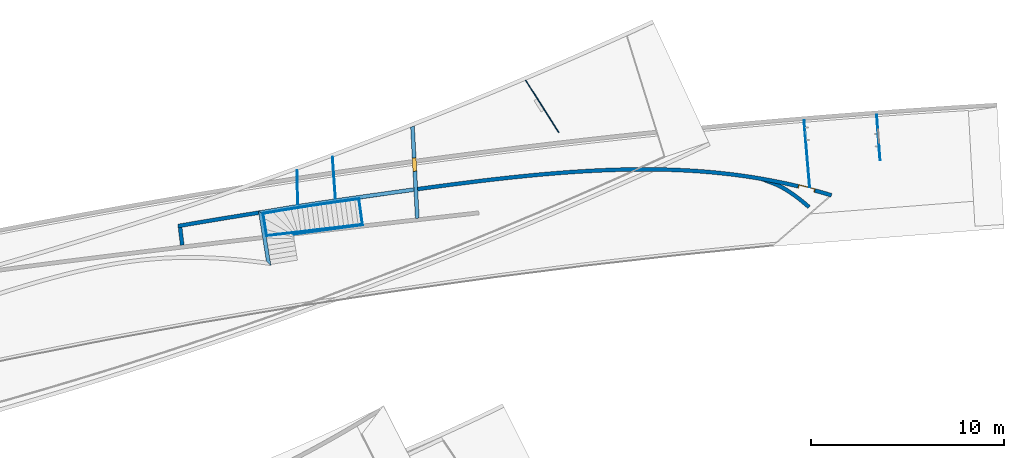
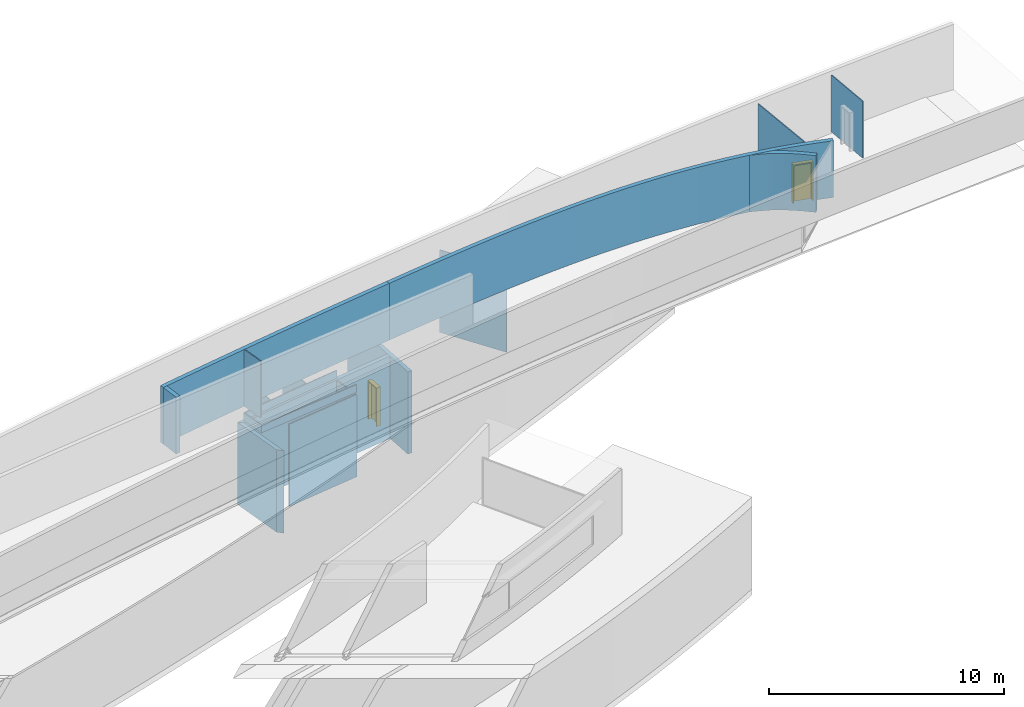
# Not in any storey, part 8 of 14: 18 walls, 2 doors, 2 openings.
"""IFC2X3 model written with IfcOpenShell, lengths in millimetres."""

from ifc_helpers import new_model, entity, si_unit, converted_unit, point, direction, frame, frame_2d, origin_with_axes, origin_2d, place, context, project, spatial, polyline, circle_curve, trimmed, segment, composite_curve, rectangle, outline, extrude, source, transform, mapped, material, layer, layer_set, layer_usage, type_object, element, fill, save


model = new_model("IFC2X3")

# Units and contexts
model_context = context("Model", 3, precision=1.0, world=origin_with_axes(), true_north=direction((0.0, 1.0)))
ifc_project = project(units=[si_unit("LENGTHUNIT", "METRE", prefix="MILLI"), converted_unit("PLANEANGLEUNIT", "DEGREE", entity("IfcRatioMeasure", 0.017453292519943), si_unit("PLANEANGLEUNIT", "RADIAN"), dimensions=[0, 0, 0, 0, 0, 0, 0])], contexts=[model_context])

# Site
site_placement = place(None, origin_with_axes())
site = spatial("IfcSite", under=ifc_project, at=site_placement, Name="Site", CompositionType="ELEMENT")

# Wall
ifc_material_1 = material(Name="Wall layer 1")
ifc_layer_1 = layer(ifc_material_1, 200.0)
ifc_layer_set_1 = layer_set([ifc_layer_1], Name="HOKI 350")
ifc_layer_usage_1 = layer_usage(ifc_layer_set_1, "AXIS2", "POSITIVE", -100.0)
wall_type_1 = type_object("IfcWallType", Name="HOKI 350", PredefinedType="STANDARD", material=ifc_layer_set_1)
wall_1_placement = place(site_placement, frame((9483.82818094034, 8338.23594610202, 9850.0), z_axis=(0.0, 0.0, 1.0), x_axis=(0.985764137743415, 0.168134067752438, 0.0)))
element("IfcWallStandardCase", 1, at=wall_1_placement, inside=site, type_object=wall_type_1, material=ifc_layer_usage_1, ObjectType="HOKI 350", context=model_context, shape_type="SweptSolid", body=[
    extrude(outline(composite_curve([segment(polyline([(12137.636975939, -293.868793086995), (12144.0243591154, -93.9708157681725)]), True, "CONTINUOUS"), segment(trimmed(circle_curve(frame_2d((0.761891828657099, -380102.678588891), x_axis=(0.031938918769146, 0.999489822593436)), 380202.678589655), [point((12144.0243591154, -93.9708157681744))], [point((-194.00870173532, 99.9501121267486))], True, "CARTESIAN"), True, "CONTINUOUS"), segment(polyline([(-194.008701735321, 99.9501121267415), (-203.99791654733, -100.055601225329)]), True, "CONTINUOUS"), segment(trimmed(circle_curve(frame_2d((1.56011106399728, -380052.70409251), x_axis=(-0.000541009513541, 0.999999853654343)), 379952.704095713), [point((-203.99791654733, -100.055601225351))], [point((12137.636975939, -293.868793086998))], False, "CARTESIAN"), True, "CONTINUOUS")], self_intersect="UNKNOWN")), origin_with_axes(), (0.0, 0.0, 1.0), 2950.0),
])

# Wall, opening, door
wall_2_placement = place(site_placement, frame((21484.4281809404, 10188.364003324, 9850.0), z_axis=(0.0, 0.0, 1.0), x_axis=(0.990601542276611, 0.136779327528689, 0.0)))
wall_2 = element("IfcWallStandardCase", 2, at=wall_2_placement, inside=site, type_object=wall_type_1, material=ifc_layer_usage_1, ObjectType="HOKI 350", context=model_context, shape_type="SweptSolid", body=[
    extrude(outline(composite_curve([segment(polyline([(21430.290167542, -3346.7649110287), (21513.7839766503, -3165.02668213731)]), True, "CONTINUOUS"), segment(polyline([(21513.7839766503, -3165.02668213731), (21200.8189237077, -3023.37899807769), (20886.4275829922, -2885.34529412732), (20570.5981295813, -2750.92174074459), (20253.3187385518, -2620.1045083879), (19934.5775849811, -2492.88976751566), (19614.3628439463, -2369.27368858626), (19292.6626905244, -2249.25244205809), (18969.4652997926, -2132.82219838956), (18645.0039474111, -2020.0592141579), (18319.4563086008, -1910.99249215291), (17992.8247231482, -1805.5818475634), (17665.1115308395, -1703.78709557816), (17336.3190714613, -1605.56805138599), (17006.4496847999, -1510.88453017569), (16675.5057106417, -1419.69634713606), (16343.4894887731, -1331.96331745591), (16010.6416991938, -1247.69817510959), (15677.0759956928, -1166.85999499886), (15342.8051066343, -1089.38007635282), (15007.8417603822, -1015.18971840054), (14672.1986853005, -944.220220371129), (14335.8886097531, -876.402881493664), (13998.924262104, -811.669000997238), (13661.3183707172, -749.949878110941), (13323.2753962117, -691.200988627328), (12984.8186889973, -635.338765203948), (12645.964974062, -582.285079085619), (12306.7309763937, -531.961801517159), (11967.1334209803, -484.290803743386), (11627.1890328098, -439.193957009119), (11286.91453687, -396.593132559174), (10946.3266581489, -356.41020163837), (10605.221986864, -318.515720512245), (10264.0360851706, -282.857167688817), (9922.7670002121, -249.359957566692), (9581.41277913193, -217.949504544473), (8898.44111718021, -161.090527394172), (8215.10547646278, -111.683551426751), (7531.39023412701, -69.1318918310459), (6847.27976732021, -32.8388637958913), (6162.75845318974, -2.20778251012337), (5477.81066888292, 23.3580368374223), (4793.07245360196, 44.4270279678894), (4108.3252218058, 61.4528596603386), (3423.57517913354, 74.8158622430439), (2738.82853122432, 84.8963660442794), (2054.09148371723, 92.0747013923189), (1369.37024225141, 96.7311986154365), (-3.638e-12, 100.000000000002)]), True, "CONTINUOUS"), segment(polyline([(-3.638e-12, 100.000000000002), (3.638e-12, -100.000000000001)]), True, "CONTINUOUS"), segment(polyline([(3.638e-12, -100.000000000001), (1368.33400706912, -103.263162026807), (2052.27325204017, -107.912032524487), (2736.10536557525, -115.079023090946), (3419.86387837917, -125.144079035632), (4103.58232115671, -138.487145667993), (4787.29422461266, -155.488168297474), (5471.03311945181, -176.527092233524), (6154.76315610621, -202.041764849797), (6837.65658900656, -232.587988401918), (7519.82297529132, -268.765494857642), (8201.37187209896, -311.17401618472), (8882.41283656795, -360.413284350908), (9563.05542583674, -417.083031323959), (9903.26156637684, -448.391750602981), (10243.4091970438, -481.782989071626), (10583.51201248, -517.331713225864), (10923.5837073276, -555.112889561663), (11262.9971183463, -595.15353815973), (11601.8463892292, -637.568654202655), (11940.1873507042, -682.446151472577), (12278.0758334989, -729.873943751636), (12615.5676683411, -779.939944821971), (12952.7186859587, -832.732068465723), (13289.5847170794, -888.338228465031), (13626.2215924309, -946.846338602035), (13962.3561710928, -1008.29081128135), (14297.5581126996, -1072.67512058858), (14631.9027891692, -1140.08628722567), (14965.4655724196, -1210.61133189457), (15298.3218343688, -1284.33727529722), (15630.5469469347, -1361.35113813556), (15962.2162820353, -1441.73994111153), (16293.4052115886, -1525.59070492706), (16623.723081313, -1612.86754516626), (16952.6642793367, -1703.48969295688), (17280.32423941, -1797.52663451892), (17606.7983952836, -1895.04785607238), (17932.1821807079, -1996.12284383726), (18256.5710294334, -2100.82108403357), (18580.0603752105, -2209.2120628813), (18902.7456517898, -2321.36526660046), (19224.1642448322, -2437.14650444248), (19543.7978868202, -2556.38125400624), (19861.7568349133, -2679.11329053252), (20178.1513462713, -2805.38638926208), (20493.0916780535, -2935.24432543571), (20806.6880874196, -3068.73087429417), (21119.0508315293, -3205.88981107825), (21430.290167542, -3346.7649110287)]), True, "CONTINUOUS")], self_intersect="UNKNOWN")), origin_with_axes(), (0.0, 0.0, 1.0), 2950.0),
])
opening_1_placement = place(wall_2_placement, frame((20238.3254842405, -2725.54654480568, 1.0914e-11), z_axis=(0.0, 0.0, 1.0), x_axis=(0.926323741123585, -0.376728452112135, -2e-15)))
opening_1 = element("IfcOpeningElement", 3, at=opening_1_placement, cuts=wall_2, Name="Opening", ObjectType="Opening", context=model_context, shape_type="SweptSolid", body=[
    extrude(rectangle(XDim=900.0, YDim=2000.0, at=origin_2d()), frame((0.0, 400.0, 1000.0), z_axis=(0.0, -1.0, 0.0), x_axis=(1.0, 0.0, 0.0)), (0.0, 0.0, 1.0), 800.0),
])
door_style_1 = type_object("IfcDoorStyle", Name="Hinged Double", ConstructionType="NOTDEFINED", OperationType="DOUBLE_DOOR_SINGLE_SWING", ParameterTakesPrecedence=True, Sizeable=False)
shared_shape_1 = source(origin_with_axes(), model_context, "Body", "SweptSolid", [
    extrude(outline(composite_curve([segment(polyline([(0.0, 0.0), (0.0, 1950.0)]), True, "CONTINUOUS"), segment(polyline([(0.0, 1950.0), (800.0, 1950.0)]), True, "CONTINUOUS"), segment(polyline([(800.0, 1950.0), (800.0, 0.0)]), True, "CONTINUOUS"), segment(polyline([(800.0, 0.0), (850.0, 0.0)]), True, "CONTINUOUS"), segment(polyline([(850.0, 0.0), (850.0, 2000.0)]), True, "CONTINUOUS"), segment(polyline([(850.0, 2000.0), (-50.0, 2000.0)]), True, "CONTINUOUS"), segment(polyline([(-50.0, 2000.0), (-50.0, 0.0)]), True, "CONTINUOUS"), segment(polyline([(-50.0, 0.0), (0.0, 0.0)]), True, "CONTINUOUS")], self_intersect=False)), frame((400.000000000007, -100.0, 1.819e-12), z_axis=(-3.6e-14, 1.0, 0.0), x_axis=(-1.0, -3.6e-14, 0.0)), (0.0, 0.0, 1.0), 200.0),
    extrude(outline(composite_curve([segment(polyline([(0.0, 0.0), (0.0, -1950.0)]), True, "CONTINUOUS"), segment(polyline([(0.0, -1950.0), (400.0, -1950.0)]), True, "CONTINUOUS"), segment(polyline([(400.0, -1950.0), (400.0, 0.0)]), True, "CONTINUOUS"), segment(polyline([(400.0, 0.0), (0.0, 0.0)]), True, "CONTINUOUS")], self_intersect=False)), frame((7.276e-12, 60.0, 1950.0), z_axis=(0.0, 1.0, 0.0), x_axis=(-1.0, 0.0, 0.0)), (0.0, 0.0, 1.0), 40.0),
    extrude(outline(composite_curve([segment(polyline([(0.0, 0.0), (0.0, 1950.0)]), True, "CONTINUOUS"), segment(polyline([(0.0, 1950.0), (-400.0, 1950.0)]), True, "CONTINUOUS"), segment(polyline([(-400.0, 1950.0), (-400.0, 0.0)]), True, "CONTINUOUS"), segment(polyline([(-400.0, 0.0), (0.0, 0.0)]), True, "CONTINUOUS")], self_intersect=False)), frame((7.276e-12, 60.0, 0.0), z_axis=(0.0, 1.0, 0.0), x_axis=(-1.0, 0.0, 0.0)), (0.0, 0.0, 1.0), 40.0),
])
door_1_placement = place(opening_1_placement, origin_with_axes())
door_1 = element("IfcDoor", 4, at=door_1_placement, inside=site, type_object=door_style_1, ObjectType="Hinged Double", OverallHeight=2000.0, OverallWidth=900.0, shape_type="MappedRepresentation", body=[
    mapped(shared_shape_1, transform((0.0, 0.0, 0.0))),
])
fill(opening_1, door_1)

# Walls
wall_3_placement = place(site_placement, frame((9388.73914328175, 8301.71660214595, 9850.0), z_axis=(0.0, 0.0, 1.0), x_axis=(0.118752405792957, -0.992923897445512, 0.0)))
element("IfcWallStandardCase", 5, at=wall_3_placement, inside=site, type_object=wall_type_1, material=ifc_layer_usage_1, ObjectType="HOKI 350", context=model_context, shape_type="SweptSolid", body=[
    extrude(outline(composite_curve([segment(polyline([(995.833622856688, 100.0), (995.864981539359, -99.9999999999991)]), True, "CONTINUOUS"), segment(polyline([(995.864981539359, -99.9999999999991), (85.1380842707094, -99.9999999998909)]), True, "CONTINUOUS"), segment(trimmed(circle_curve(frame_2d((379554.529638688, 19058.2791708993), x_axis=(-0.998727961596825, -0.050422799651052)), 379952.705987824), [point((85.1380842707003, -99.9999999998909))], [point((75.0935181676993, 100.000000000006))], False, "CARTESIAN"), True, "CONTINUOUS"), segment(polyline([(75.0935181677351, 100.000000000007), (995.833622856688, 100.0)]), True, "CONTINUOUS")], self_intersect="UNKNOWN")), origin_with_axes(), (0.0, 0.0, 1.0), 2950.0),
])
wall_4_placement = place(site_placement, frame((40180.8445353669, 10519.5757198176, 9850.0), z_axis=(0.0, 0.0, 1.0), x_axis=(0.933100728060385, -0.359615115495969, 0.0)))
element("IfcWallStandardCase", 6, at=wall_4_placement, inside=site, type_object=wall_type_1, material=ifc_layer_usage_1, ObjectType="HOKI 350", context=model_context, shape_type="SweptSolid", body=[
    extrude(outline(composite_curve([segment(polyline([(2139.19432481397, -576.661874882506), (2209.06631616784, -389.264156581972)]), True, "CONTINUOUS"), segment(polyline([(2209.06631616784, -389.264156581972), (1996.26981881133, -312.12857717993), (1774.18461215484, -236.665008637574), (1544.5815308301, -164.617382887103), (1309.23140946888, -97.7296318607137), (1189.95459459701, -66.7656880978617), (1069.90508270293, -37.7456874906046), (949.304228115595, -10.887621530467), (828.373385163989, 13.5905182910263), (707.333908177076, 35.4707404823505), (586.407151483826, 54.535053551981), (465.814469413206, 70.5654660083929), (345.777216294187, 83.3439863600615)]), True, "CONTINUOUS"), segment(polyline([(345.777216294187, 83.3439863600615), (90.1056677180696, 39.7202424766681), (-158.462767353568, -4.84372326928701), (-406.450668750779, -51.4191129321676), (-653.905478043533, -100.000000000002)]), True, "CONTINUOUS"), segment(polyline([(-653.905478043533, -100.000000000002), (0.0, -100.0), (130.590937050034, -102.714415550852), (263.49025299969, -110.63034084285), (398.292115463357, -123.406793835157), (534.590692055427, -140.702792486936), (671.980150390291, -162.17735475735), (810.054658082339, -187.489498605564), (948.408382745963, -216.298241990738), (1086.63549199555, -248.262602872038), (1224.3301534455, -283.041599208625), (1361.0865347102, -320.294248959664), (1496.49880340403, -359.679570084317), (1630.1611271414, -400.856580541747), (1890.61261020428, -487.221741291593), (2139.19432481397, -576.661874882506)]), True, "CONTINUOUS")], self_intersect="UNKNOWN")), origin_with_axes(), (0.0, 0.0, 1.0), 2950.0),
])

# Wall, opening, door
wall_5_placement = place(site_placement, frame((21706.6108007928, 8706.43638090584, 4720.0), z_axis=(0.0, 0.0, 1.0), x_axis=(-0.052079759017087, 0.998642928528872, 0.0)))
wall_5 = element("IfcWallStandardCase", 7, at=wall_5_placement, inside=site, type_object=wall_type_1, material=ifc_layer_usage_1, ObjectType="HOKI 350", context=model_context, shape_type="SweptSolid", body=[
    extrude(outline(composite_curve([segment(trimmed(circle_curve(frame_2d((231048.319927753, 75676.3682972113), x_axis=(-0.94850931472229, -0.31674923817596)), 238600.00021603), [point((4733.99723010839, 99.9999999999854))], [point((4800.88433836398, -100.000000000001))], True, "CARTESIAN"), True, "CONTINUOUS"), segment(polyline([(4800.88433836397, -100.000000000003), (-9.09e-13, -99.9999999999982)]), True, "CONTINUOUS"), segment(polyline([(-9.09e-13, -99.9999999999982), (-9.09e-13, 99.9999999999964)]), True, "CONTINUOUS"), segment(polyline([(-9.09e-13, 99.9999999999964), (4733.99723010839, 99.9999999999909)]), True, "CONTINUOUS")], self_intersect="UNKNOWN")), origin_with_axes(), (0.0, 0.0, 1.0), 4280.0),
])
opening_2_placement = place(wall_5_placement, frame((2793.71131564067, 7.276e-12, 9.09e-13), z_axis=(0.0, 0.0, 1.0), x_axis=(-1.0, -7e-15, 0.0)))
opening_2 = element("IfcOpeningElement", 8, at=opening_2_placement, cuts=wall_5, Name="Opening", ObjectType="Opening", context=model_context, shape_type="SweptSolid", body=[
    extrude(rectangle(XDim=700.0, YDim=2000.0, at=origin_2d()), frame((0.0, 600.0, 1000.0), z_axis=(0.0, -1.0, 0.0), x_axis=(1.0, 0.0, 0.0)), (0.0, 0.0, 1.0), 1200.0),
])
door_style_2 = type_object("IfcDoorStyle", Name="Hinged", ConstructionType="NOTDEFINED", OperationType="SINGLE_SWING_LEFT", ParameterTakesPrecedence=True, Sizeable=False)
shared_shape_2 = source(origin_with_axes(), model_context, "Body", "SweptSolid", [
    extrude(outline(composite_curve([segment(polyline([(0.0, 0.0), (0.0, 1950.0)]), True, "CONTINUOUS"), segment(polyline([(0.0, 1950.0), (600.0, 1950.0)]), True, "CONTINUOUS"), segment(polyline([(600.0, 1950.0), (600.0, 0.0)]), True, "CONTINUOUS"), segment(polyline([(600.0, 0.0), (650.0, 0.0)]), True, "CONTINUOUS"), segment(polyline([(650.0, 0.0), (650.0, 2000.0)]), True, "CONTINUOUS"), segment(polyline([(650.0, 2000.0), (-50.0, 2000.0)]), True, "CONTINUOUS"), segment(polyline([(-50.0, 2000.0), (-50.0, 0.0)]), True, "CONTINUOUS"), segment(polyline([(-50.0, 0.0), (0.0, 0.0)]), True, "CONTINUOUS")], self_intersect=False)), frame((300.0, -100.0, 0.0), z_axis=(-9e-15, 1.0, 0.0), x_axis=(-1.0, -9e-15, 0.0)), (0.0, 0.0, 1.0), 200.0),
    extrude(outline(composite_curve([segment(polyline([(0.0, 0.0), (0.0, 1950.0)]), True, "CONTINUOUS"), segment(polyline([(0.0, 1950.0), (-600.0, 1950.0)]), True, "CONTINUOUS"), segment(polyline([(-600.0, 1950.0), (-600.0, 0.0)]), True, "CONTINUOUS"), segment(polyline([(-600.0, 0.0), (0.0, 0.0)]), True, "CONTINUOUS")], self_intersect=False)), frame((-300.0, 60.0, 0.0), z_axis=(0.0, 1.0, 0.0), x_axis=(-1.0, 0.0, 0.0)), (0.0, 0.0, 1.0), 40.0000000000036),
])
door_2_placement = place(opening_2_placement, origin_with_axes())
door_2 = element("IfcDoor", 9, at=door_2_placement, inside=site, type_object=door_style_2, ObjectType="Hinged", OverallHeight=2000.0, OverallWidth=700.0, shape_type="MappedRepresentation", body=[
    mapped(shared_shape_2, transform((0.0, 0.0, 0.0))),
])
fill(opening_2, door_2)

# Walls
wall_6_placement = place(site_placement, frame((13667.693475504, 9027.85338323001, 4720.0), z_axis=(0.0, 0.0, 1.0), x_axis=(0.985991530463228, 0.166795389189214, 0.0)))
element("IfcWallStandardCase", 10, at=wall_6_placement, inside=site, type_object=wall_type_1, material=ifc_layer_usage_1, ObjectType="HOKI 350", context=model_context, shape_type="SweptSolid", body=[
    extrude(outline(composite_curve([segment(polyline([(7957.33848552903, -60.1025787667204), (7934.2098410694, -259.502363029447)]), True, "CONTINUOUS"), segment(polyline([(7934.2098410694, -259.502363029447), (5953.39847230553, -201.985092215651), (3972.58447425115, -150.295153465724), (2931.35184180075, -127.360093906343), (1986.36349235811, -111.746295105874), (1041.33951529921, -102.833137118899), (-0.067269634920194, -99.9999999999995)]), True, "CONTINUOUS"), segment(polyline([(-0.067269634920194, -99.9999999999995), (-198.328044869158, 100.0)]), True, "CONTINUOUS"), segment(polyline([(-198.328044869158, 100.0), (1.819e-12, 100.0), (1042.58416678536, 97.160988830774), (1988.96879729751, 88.2332827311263), (2935.20980453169, 72.6008728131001), (3977.36310148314, 49.6477501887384), (4971.06877086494, 24.714320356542), (5964.70130245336, -2.22295985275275), (7951.71023489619, -59.9349250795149), (7957.33848552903, -60.1025787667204)]), True, "CONTINUOUS")], self_intersect="UNKNOWN")), origin_with_axes(), (0.0, 0.0, 1.0), 4280.0),
])
wall_7_placement = place(site_placement, frame((14004.7230728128, 6296.86660097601, 4720.0), z_axis=(0.0, 0.0, 1.0), x_axis=(-0.158177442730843, 0.987410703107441, 0.0)))
element("IfcWallStandardCase", 11, at=wall_7_placement, inside=site, type_object=wall_type_1, material=ifc_layer_usage_1, ObjectType="HOKI 350", context=model_context, shape_type="SweptSolid", body=[
    extrude(outline(polyline([(2649.91928529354, -100.0), (2848.18006052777, 99.9999999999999), (208.998367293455, 100.0), (-60.7853370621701, -100.0), (2649.91928529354, -99.9999999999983)])), origin_with_axes(), (0.0, 0.0, 1.0), 4280.0),
])
ifc_material_2 = material(Name="Wall layer 1")
ifc_layer_2 = layer(ifc_material_2, 50.0)
ifc_layer_set_2 = layer_set([ifc_layer_2], Name="HOKI 50mm")
ifc_layer_usage_2 = layer_usage(ifc_layer_set_2, "AXIS2", "POSITIVE", -25.0)
wall_type_2 = type_object("IfcWallType", Name="HOKI 50mm", PredefinedType="STANDARD", material=ifc_layer_set_2)
wall_8_placement = place(site_placement, frame((42081.824300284, 10197.4071981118, 9850.0), z_axis=(0.0, 0.0, 1.0), x_axis=(-0.084519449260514, 0.996421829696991, 0.0)))
element("IfcWallStandardCase", 12, at=wall_8_placement, inside=site, type_object=wall_type_2, material=ifc_layer_usage_2, ObjectType="HOKI 50mm", context=model_context, shape_type="SweptSolid", body=[
    extrude(outline(composite_curve([segment(trimmed(circle_curve(frame_2d((-377896.862999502, 623.691500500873), x_axis=(0.99999876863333, -0.001569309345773)), 381499.99049802), [point((3602.65773214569, 24.9999999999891))], [point((3602.57599002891, -24.9999999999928))], False, "CARTESIAN"), True, "CONTINUOUS"), segment(polyline([(3602.57599002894, -24.9999999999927), (114.878698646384, -24.9999999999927)]), True, "CONTINUOUS"), segment(polyline([(114.878698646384, -24.9999999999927), (132.479107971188, 24.9999999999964)]), True, "CONTINUOUS"), segment(polyline([(132.479107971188, 24.9999999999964), (3602.65773214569, 24.9999999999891)]), True, "CONTINUOUS")], self_intersect="UNKNOWN")), origin_with_axes(), (0.0, 0.0, 1.0), 2950.0),
])
wall_9_placement = place(site_placement, frame((45725.4182816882, 11721.9215007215, 9850.0), z_axis=(0.0, 0.0, 1.0), x_axis=(-0.074895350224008, 0.997191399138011, 0.0)))
element("IfcWallStandardCase", 13, at=wall_9_placement, inside=site, type_object=wall_type_2, material=ifc_layer_usage_2, ObjectType="HOKI 50mm", context=model_context, shape_type="SweptSolid", body=[
    extrude(outline(composite_curve([segment(trimmed(circle_curve(frame_2d((-379132.620191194, 722.718864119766), x_axis=(0.999998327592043, -0.001828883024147)), 381499.994755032), [point((2366.73654021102, 25.0000000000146))], [point((2366.64181934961, -24.9999999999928))], False, "CARTESIAN"), True, "CONTINUOUS"), segment(polyline([(2366.6418193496, -24.9999999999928), (0.0, -25.0000000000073)]), True, "CONTINUOUS"), segment(polyline([(0.0, -25.0000000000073), (-9.09e-13, 24.9999999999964)]), True, "CONTINUOUS"), segment(polyline([(-9.09e-13, 24.9999999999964), (2366.736540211, 25.0000000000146)]), True, "CONTINUOUS")], self_intersect="UNKNOWN")), origin_with_axes(), (0.0, 0.0, 1.0), 2950.0),
])
wall_10_placement = place(site_placement, frame((17473.7019665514, 9561.46801503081, 4720.0), z_axis=(0.0, 0.0, 1.0), x_axis=(-0.07192172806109, 0.997410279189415, 0.0)))
element("IfcWallStandardCase", 14, at=wall_10_placement, inside=site, type_object=wall_type_2, material=ifc_layer_usage_2, ObjectType="HOKI 50mm", context=model_context, shape_type="SweptSolid", body=[
    extrude(outline(composite_curve([segment(trimmed(circle_curve(frame_2d((231349.794538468, 66907.8975686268), x_axis=(-0.959908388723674, -0.280313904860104)), 238599.999532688), [point((2315.65343757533, 24.9999999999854))], [point((2330.26043697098, -25.0000000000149))], True, "CARTESIAN"), True, "CONTINUOUS"), segment(polyline([(2330.260436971, -25.0000000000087), (163.728436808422, -25.0000000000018)]), True, "CONTINUOUS"), segment(polyline([(163.728436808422, -25.0000000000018), (160.120350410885, 24.9999999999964)]), True, "CONTINUOUS"), segment(polyline([(160.120350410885, 24.9999999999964), (2315.65343757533, 24.9999999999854)]), True, "CONTINUOUS")], self_intersect="UNKNOWN")), origin_with_axes(), (0.0, 0.0, 1.0), 4280.0),
])
wall_11_placement = place(site_placement, frame((15510.2174542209, 9253.03418190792, 4720.0), z_axis=(0.0, 0.0, 1.0), x_axis=(-0.023540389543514, 0.999722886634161, 0.0)))
element("IfcWallStandardCase", 15, at=wall_11_placement, inside=site, type_object=wall_type_2, material=ifc_layer_usage_2, ObjectType="HOKI 50mm", context=model_context, shape_type="SweptSolid", body=[
    extrude(outline(composite_curve([segment(trimmed(circle_curve(frame_2d((228100.704609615, 76061.7181122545), x_axis=(-0.947862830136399, -0.318678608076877)), 238600.006982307), [point((1940.626720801, 25.0))], [point((1957.44324889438, -25.0000000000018))], True, "CARTESIAN"), True, "CONTINUOUS"), segment(polyline([(1957.44324889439, -25.0000000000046), (180.05793537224, -25.0000000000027)]), True, "CONTINUOUS"), segment(polyline([(180.05793537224, -25.0000000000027), (173.42960436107, 24.9999999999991)]), True, "CONTINUOUS"), segment(polyline([(173.42960436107, 24.9999999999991), (1940.62672080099, 25.0000000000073)]), True, "CONTINUOUS")], self_intersect="UNKNOWN")), origin_with_axes(), (0.0, 0.0, 1.0), 4280.0),
])
wall_12_placement = place(site_placement, frame((27330.6624216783, 15864.0313428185, 4720.0), z_axis=(0.0, 0.0, 1.0), x_axis=(0.536349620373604, -0.843995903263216, 0.0)))
element("IfcWallStandardCase", 16, at=wall_12_placement, inside=site, type_object=wall_type_2, material=ifc_layer_usage_2, ObjectType="HOKI 50mm", context=model_context, shape_type="SweptSolid", body=[
    extrude(outline(composite_curve([segment(trimmed(circle_curve(frame_2d((-235376.098421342, 39115.3729736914), x_axis=(0.986453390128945, -0.164041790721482)), 238600.010409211), [point((-8.30926837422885, -24.9999999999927))], [point((-2.5388e-11, 24.9999999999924))], True, "CARTESIAN"), True, "CONTINUOUS"), segment(polyline([(-3.8484e-11, 24.9999999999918), (3198.12777664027, 25.0)]), True, "CONTINUOUS"), segment(polyline([(3198.12777664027, 25.0), (3198.12777664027, -25.0)]), True, "CONTINUOUS"), segment(polyline([(3198.12777664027, -25.0), (-8.30926837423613, -24.9999999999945)]), True, "CONTINUOUS")], self_intersect="UNKNOWN")), origin_with_axes(), (0.0, 0.0, 1.0), 4280.0),
])
wall_13_placement = place(site_placement, frame((13885.5814539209, 7830.85087515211, 9850.0), z_axis=(0.0, 0.0, 1.0), x_axis=(-0.15817744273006, 0.987410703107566, 0.0)))
element("IfcWallStandardCase", 17, at=wall_13_placement, inside=site, type_object=wall_type_2, material=ifc_layer_usage_2, ObjectType="HOKI 50mm", context=model_context, shape_type="SweptSolid", body=[
    extrude(outline(composite_curve([segment(trimmed(circle_curve(frame_2d((-378836.080258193, 429.133022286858), x_axis=(0.999999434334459, -0.001063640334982)), 379952.704871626), [point((1116.40968728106, 24.9999999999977))], [point((1116.35321534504, -25.0000000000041))], False, "CARTESIAN"), True, "CONTINUOUS"), segment(polyline([(1116.353215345, -25.0000000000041), (-2.04127554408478, -24.9999999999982)]), True, "CONTINUOUS"), segment(polyline([(-2.04127554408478, -24.9999999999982), (0.098294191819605, 24.9999999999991)]), True, "CONTINUOUS"), segment(polyline([(0.098294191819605, 24.9999999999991), (1116.40968728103, 24.9999999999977)]), True, "CONTINUOUS")], self_intersect="UNKNOWN")), origin_with_axes(), (0.0, 0.0, 1.0), 2950.0),
])
wall_14_placement = place(site_placement, frame((13680.1533815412, 8953.89562000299, 9100.0), z_axis=(0.0, 0.0, 1.0), x_axis=(0.986033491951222, 0.16654714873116, 0.0)))
element("IfcWallStandardCase", 18, at=wall_14_placement, inside=site, type_object=wall_type_2, material=ifc_layer_usage_2, ObjectType="HOKI 50mm", context=model_context, shape_type="SweptSolid", body=[
    extrude(outline(composite_curve([segment(polyline([(5080.28694606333, -107.470315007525), (5081.85312604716, -57.4946967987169)]), True, "CONTINUOUS"), segment(polyline([(5081.85312604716, -57.4946967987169), (4395.47537092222, -35.4827493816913), (3753.06222274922, -17.4695555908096), (3139.94533919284, -3.12718294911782), (2541.45637791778, 7.87230102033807), (1942.92699658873, 15.8568287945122), (1329.68885287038, 21.1543328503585), (687.073604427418, 24.0927456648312), (0.412908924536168, 24.9999997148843)]), True, "CONTINUOUS"), segment(polyline([(0.412908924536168, 24.9999997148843), (49.99123384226, -25.0042208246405)]), True, "CONTINUOUS"), segment(polyline([(49.99123384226, -25.0042208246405), (727.216855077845, -26.0243758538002), (1362.00423505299, -29.0591550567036), (1968.65199198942, -34.4280952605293), (2561.45874410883, -42.4507332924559), (3154.72310963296, -53.4466059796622), (3762.74370678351, -67.7352501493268), (4399.81915378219, -85.6362026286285), (5080.28694606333, -107.470315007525)]), True, "CONTINUOUS")], self_intersect="UNKNOWN")), origin_with_axes(), (0.0, 0.0, 1.0), 400.0),
])
wall_15_placement = place(site_placement, frame((18886.425698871, 8382.32958289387, 9100.00034153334), z_axis=(0.0, 0.0, 1.0), x_axis=(-0.993059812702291, -0.117610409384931, 0.0)))
element("IfcWallStandardCase", 19, at=wall_15_placement, inside=site, type_object=wall_type_2, material=ifc_layer_usage_2, ObjectType="HOKI 50mm", context=model_context, shape_type="SweptSolid", body=[
    extrude(outline(composite_curve([segment(polyline([(5005.90695182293, -39.1909560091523), (5053.91022726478, 10.5363924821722)]), True, "CONTINUOUS"), segment(trimmed(circle_curve(frame_2d((8.014695e-09, -882957.262544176), x_axis=(0.005723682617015, 0.999983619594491)), 882982.262544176), [point((5053.91022726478, 10.536392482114))], [point((-0.905848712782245, 24.9999995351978))], True, "CARTESIAN"), True, "CONTINUOUS"), segment(polyline([(-0.90584871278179, 24.9999995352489), (3.0241e-11, -25.0000000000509)]), True, "CONTINUOUS"), segment(trimmed(circle_curve(frame_2d((9.608812e-09, -882957.262540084), x_axis=(0.0, 1.0)), 882932.262540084), [point((3.0241e-11, -25.0))], [point((5005.90695182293, -39.1909560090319))], False, "CARTESIAN"), True, "CONTINUOUS")], self_intersect="UNKNOWN")), origin_with_axes(), (0.0, 0.0, 1.0), 399.999112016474),
])
wall_16_placement = place(site_placement, frame((18682.6169247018, 9690.63861118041, 4720.0), z_axis=(0.0, 0.0, 1.0), x_axis=(0.135578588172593, -0.990766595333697, 0.0)))
element("IfcWallStandardCase", 20, at=wall_16_placement, inside=site, type_object=wall_type_2, material=ifc_layer_usage_2, ObjectType="HOKI 50mm", context=model_context, shape_type="SweptSolid", body=[
    extrude(outline(composite_curve([segment(polyline([(-5.26635750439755, -24.9999999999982), (-5.52715925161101, 25.0000000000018)]), True, "CONTINUOUS"), segment(polyline([(-5.52715925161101, 25.0000000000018), (1363.11480927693, 25.0)]), True, "CONTINUOUS"), segment(polyline([(1363.11480927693, 25.0), (1313.13245844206, -25.0)]), True, "CONTINUOUS"), segment(polyline([(1313.13245844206, -25.0), (-5.26635750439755, -24.9999999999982)]), True, "CONTINUOUS")], self_intersect="UNKNOWN")), origin_with_axes(), (0.0, 0.0, 1.0), 4280.0),
])
wall_17_placement = place(site_placement, frame((18881.9297351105, 8367.32502529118, 4720.0), z_axis=(0.0, 0.0, 1.0), x_axis=(-0.990715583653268, -0.13595084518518, 0.0)))
element("IfcWallStandardCase", 21, at=wall_17_placement, inside=site, type_object=wall_type_2, material=ifc_layer_usage_2, ObjectType="HOKI 50mm", context=model_context, shape_type="SweptSolid", body=[
    extrude(outline(composite_curve([segment(polyline([(3621.98907865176, -33.2414877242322), (3622.2166178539, 16.7579945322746)]), True, "CONTINUOUS"), segment(trimmed(circle_curve(frame_2d((8.4731369e-08, -795929.407453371), x_axis=(0.004550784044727, 0.999989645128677)), 795954.407453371), [point((3622.2166178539, 16.7579945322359))], [point((-6.93112021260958, 24.9999698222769))], True, "CARTESIAN"), True, "CONTINUOUS"), segment(polyline([(-6.93112021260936, 24.9999698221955), (43.0500960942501, -25.0011642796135)]), True, "CONTINUOUS"), segment(trimmed(circle_curve(frame_2d((-8.6272962e-08, -795929.407514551), x_axis=(5.4089531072e-05, 0.999999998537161)), 795904.407514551), [point((43.0500960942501, -25.0011642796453))], [point((3621.98907865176, -33.2414877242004))], False, "CARTESIAN"), True, "CONTINUOUS")], self_intersect="UNKNOWN")), origin_with_axes(), (0.0, 0.0, 1.0), 4280.0),
])
wall_18_placement = place(site_placement, frame((13885.5967691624, 7830.85295272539, 9100.00088798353), z_axis=(0.0, 0.0, 1.0), x_axis=(-0.158191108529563, 0.987408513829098, 0.0)))
element("IfcWallStandardCase", 22, at=wall_18_placement, inside=site, type_object=wall_type_2, material=ifc_layer_usage_2, ObjectType="HOKI 50mm", context=model_context, shape_type="SweptSolid", body=[
    extrude(outline(polyline([(1116.82122688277, -25.0), (1166.40380823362, 25.0), (-50.0545723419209, 25.0), (-2.33535565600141, -24.9999999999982), (1116.82122688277, -25.0)])), origin_with_axes(), (0.0, 0.0, 1.0), 400.0),
])

save(model, "model.ifc")
